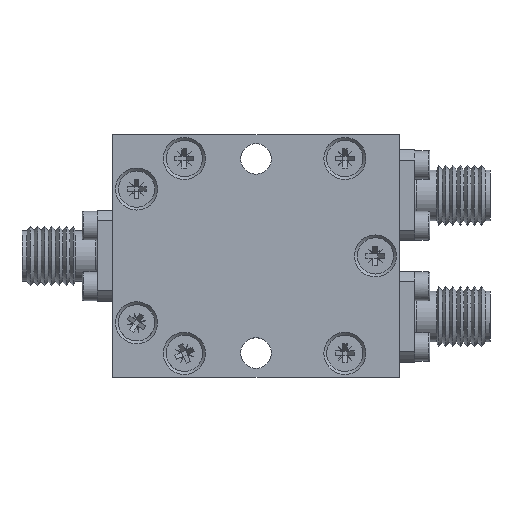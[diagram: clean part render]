
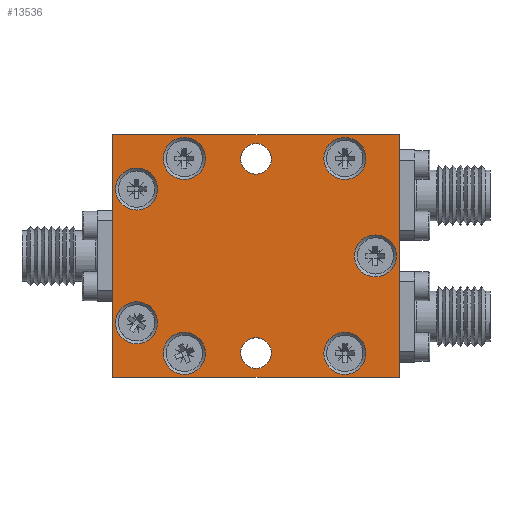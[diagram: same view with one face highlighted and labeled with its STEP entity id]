
A CAD part, top view. The second image highlights one B-rep face of the part: STEP entity #13536.
In plain terms, the highlighted planar face has unit normal (0, 0, 1).
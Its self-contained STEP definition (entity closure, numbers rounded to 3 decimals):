
#297=LINE('',#17890,#1089);
#298=LINE('',#17893,#1090);
#299=LINE('',#17895,#1091);
#300=LINE('',#17897,#1092);
#1089=VECTOR('',#15197,1000.);
#1090=VECTOR('',#15198,1000.);
#1091=VECTOR('',#15199,1000.);
#1092=VECTOR('',#15200,1000.);
#1881=PLANE('',#14218);
#2274=ORIENTED_EDGE('',*,*,#4664,.T.);
#2275=ORIENTED_EDGE('',*,*,#4665,.T.);
#2276=ORIENTED_EDGE('',*,*,#4666,.T.);
#2277=ORIENTED_EDGE('',*,*,#4667,.T.);
#2278=ORIENTED_EDGE('',*,*,#4663,.T.);
#2279=ORIENTED_EDGE('',*,*,#4661,.T.);
#2280=ORIENTED_EDGE('',*,*,#4659,.T.);
#2281=ORIENTED_EDGE('',*,*,#4657,.T.);
#2282=ORIENTED_EDGE('',*,*,#4655,.T.);
#2283=ORIENTED_EDGE('',*,*,#4653,.T.);
#2284=ORIENTED_EDGE('',*,*,#4651,.T.);
#2285=ORIENTED_EDGE('',*,*,#4668,.F.);
#2286=ORIENTED_EDGE('',*,*,#4669,.F.);
#4651=EDGE_CURVE('',#5846,#5846,#6763,.T.);
#4653=EDGE_CURVE('',#5848,#5848,#6765,.T.);
#4655=EDGE_CURVE('',#5850,#5850,#6767,.T.);
#4657=EDGE_CURVE('',#5852,#5852,#6769,.T.);
#4659=EDGE_CURVE('',#5854,#5854,#6771,.T.);
#4661=EDGE_CURVE('',#5856,#5856,#6773,.T.);
#4663=EDGE_CURVE('',#5858,#5858,#6775,.T.);
#4664=EDGE_CURVE('',#5859,#5860,#297,.T.);
#4665=EDGE_CURVE('',#5860,#5861,#298,.T.);
#4666=EDGE_CURVE('',#5861,#5862,#299,.T.);
#4667=EDGE_CURVE('',#5862,#5859,#300,.T.);
#4668=EDGE_CURVE('',#5863,#5863,#6776,.T.);
#4669=EDGE_CURVE('',#5864,#5864,#6777,.T.);
#5846=VERTEX_POINT('',#17858);
#5848=VERTEX_POINT('',#17863);
#5850=VERTEX_POINT('',#17868);
#5852=VERTEX_POINT('',#17873);
#5854=VERTEX_POINT('',#17878);
#5856=VERTEX_POINT('',#17883);
#5858=VERTEX_POINT('',#17888);
#5859=VERTEX_POINT('',#17891);
#5860=VERTEX_POINT('',#17892);
#5861=VERTEX_POINT('',#17894);
#5862=VERTEX_POINT('',#17896);
#5863=VERTEX_POINT('',#17899);
#5864=VERTEX_POINT('',#17901);
#6763=CIRCLE('',#14199,2.2);
#6765=CIRCLE('',#14202,2.2);
#6767=CIRCLE('',#14205,2.2);
#6769=CIRCLE('',#14208,2.2);
#6771=CIRCLE('',#14211,2.2);
#6773=CIRCLE('',#14214,2.2);
#6775=CIRCLE('',#14217,2.2);
#6776=CIRCLE('',#14219,1.6);
#6777=CIRCLE('',#14220,1.6);
#7099=EDGE_LOOP('',(#2274,#2275,#2276,#2277));
#7100=EDGE_LOOP('',(#2278));
#7101=EDGE_LOOP('',(#2279));
#7102=EDGE_LOOP('',(#2280));
#7103=EDGE_LOOP('',(#2281));
#7104=EDGE_LOOP('',(#2282));
#7105=EDGE_LOOP('',(#2283));
#7106=EDGE_LOOP('',(#2284));
#7107=EDGE_LOOP('',(#2285));
#7108=EDGE_LOOP('',(#2286));
#8043=FACE_BOUND('',#7099,.T.);
#8044=FACE_BOUND('',#7100,.T.);
#8045=FACE_BOUND('',#7101,.T.);
#8046=FACE_BOUND('',#7102,.T.);
#8047=FACE_BOUND('',#7103,.T.);
#8048=FACE_BOUND('',#7104,.T.);
#8049=FACE_BOUND('',#7105,.T.);
#8050=FACE_BOUND('',#7106,.T.);
#8051=FACE_BOUND('',#7107,.T.);
#8052=FACE_BOUND('',#7108,.T.);
#13536=ADVANCED_FACE('',(#8043,#8044,#8045,#8046,#8047,#8048,#8049,#8050,
#8051,#8052),#1881,.T.);
#14199=AXIS2_PLACEMENT_3D('',#17857,#15157,#15158);
#14202=AXIS2_PLACEMENT_3D('',#17862,#15163,#15164);
#14205=AXIS2_PLACEMENT_3D('',#17867,#15169,#15170);
#14208=AXIS2_PLACEMENT_3D('',#17872,#15175,#15176);
#14211=AXIS2_PLACEMENT_3D('',#17877,#15181,#15182);
#14214=AXIS2_PLACEMENT_3D('',#17882,#15187,#15188);
#14217=AXIS2_PLACEMENT_3D('',#17887,#15193,#15194);
#14218=AXIS2_PLACEMENT_3D('',#17889,#15195,#15196);
#14219=AXIS2_PLACEMENT_3D('',#17898,#15201,#15202);
#14220=AXIS2_PLACEMENT_3D('',#17900,#15203,#15204);
#15157=DIRECTION('',(0.,0.,-1.));
#15158=DIRECTION('',(0.,1.,0.));
#15163=DIRECTION('',(0.,0.,-1.));
#15164=DIRECTION('',(0.,1.,0.));
#15169=DIRECTION('',(0.,0.,-1.));
#15170=DIRECTION('',(0.,1.,0.));
#15175=DIRECTION('',(0.,0.,-1.));
#15176=DIRECTION('',(0.,1.,0.));
#15181=DIRECTION('',(0.,0.,-1.));
#15182=DIRECTION('',(0.,1.,0.));
#15187=DIRECTION('',(0.,0.,-1.));
#15188=DIRECTION('',(0.,1.,0.));
#15193=DIRECTION('',(0.,0.,-1.));
#15194=DIRECTION('',(0.,1.,0.));
#15195=DIRECTION('',(0.,0.,1.));
#15196=DIRECTION('',(1.,0.,0.));
#15197=DIRECTION('',(0.,-1.,0.));
#15198=DIRECTION('',(1.,0.,0.));
#15199=DIRECTION('',(0.,1.,0.));
#15200=DIRECTION('',(-1.,0.,0.));
#15201=DIRECTION('',(0.,0.,1.));
#15202=DIRECTION('',(1.,0.,0.));
#15203=DIRECTION('',(0.,0.,1.));
#15204=DIRECTION('',(1.,0.,0.));
#17857=CARTESIAN_POINT('',(-7.5,-10.2,4.));
#17858=CARTESIAN_POINT('',(-7.5,-8.,4.));
#17862=CARTESIAN_POINT('',(-7.5,10.2,4.));
#17863=CARTESIAN_POINT('',(-7.5,12.4,4.));
#17867=CARTESIAN_POINT('',(12.5,0.,4.));
#17868=CARTESIAN_POINT('',(12.5,2.2,4.));
#17872=CARTESIAN_POINT('',(9.3,10.2,4.));
#17873=CARTESIAN_POINT('',(9.3,12.4,4.));
#17877=CARTESIAN_POINT('',(9.3,-10.2,4.));
#17878=CARTESIAN_POINT('',(9.3,-8.,4.));
#17882=CARTESIAN_POINT('',(-12.5,-7.,4.));
#17883=CARTESIAN_POINT('',(-12.5,-4.8,4.));
#17887=CARTESIAN_POINT('',(-12.5,7.,4.));
#17888=CARTESIAN_POINT('',(-12.5,9.2,4.));
#17889=CARTESIAN_POINT('',(0.,0.,4.));
#17890=CARTESIAN_POINT('',(-15.,12.7,4.));
#17891=CARTESIAN_POINT('',(-15.,12.7,4.));
#17892=CARTESIAN_POINT('',(-15.,-12.7,4.));
#17893=CARTESIAN_POINT('',(-15.,-12.7,4.));
#17894=CARTESIAN_POINT('',(15.,-12.7,4.));
#17895=CARTESIAN_POINT('',(15.,-12.7,4.));
#17896=CARTESIAN_POINT('',(15.,12.7,4.));
#17897=CARTESIAN_POINT('',(15.,12.7,4.));
#17898=CARTESIAN_POINT('',(0.,10.16,4.));
#17899=CARTESIAN_POINT('',(1.6,10.16,4.));
#17900=CARTESIAN_POINT('',(0.,-10.16,4.));
#17901=CARTESIAN_POINT('',(1.6,-10.16,4.));
